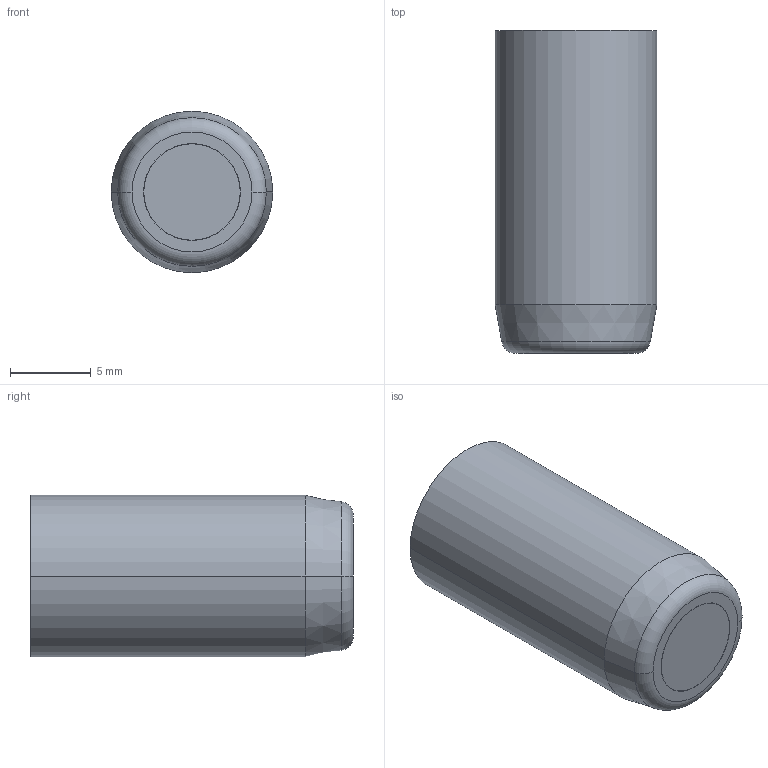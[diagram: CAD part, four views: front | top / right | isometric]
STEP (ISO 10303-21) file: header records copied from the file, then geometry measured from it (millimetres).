
FILE_DESCRIPTION (( 'STEP AP214' ), '1' );
FILE_NAME ('FA1057SF.STEP', '2013-06-28T07:48:58', ( '' ), ( '' ), 'SwSTEP 2.0', 'SolidWorks 2011', '' );
FILE_SCHEMA (( 'AUTOMOTIVE_DESIGN' ));
Length unit declared in the file: millimetre
Products named in the file (6): FA1057SF; FA 105700-3; IA 5717SF; 9FA 105712; FA 105700-1; FA 084700-2 comprimido
Assembly tree (5 placements, depth 2):
  FA1057SF
    9FA 105712
    FA 105700-3
    FA 084700-2 comprimido
    FA 105700-1
    IA 5717SF
Bounding box: 10 x 20 x 10 mm (x, y, z)
Volume: 1394.3 mm3; surface area: 1740.8 mm2
Topology: 5 solids, 5 shells, 311 faces, 785 edges, 510 vertices
Faces by surface type: plane 139, cylinder 132, cone 24, torus 12, bspline 2, sphere 2
Entity records: 11073 total; most frequent: CARTESIAN_POINT 3082, DIRECTION 1697, ORIENTED_EDGE 1566, EDGE_CURVE 783, AXIS2_PLACEMENT_3D 633, VERTEX_POINT 510, LINE 431, VECTOR 431
